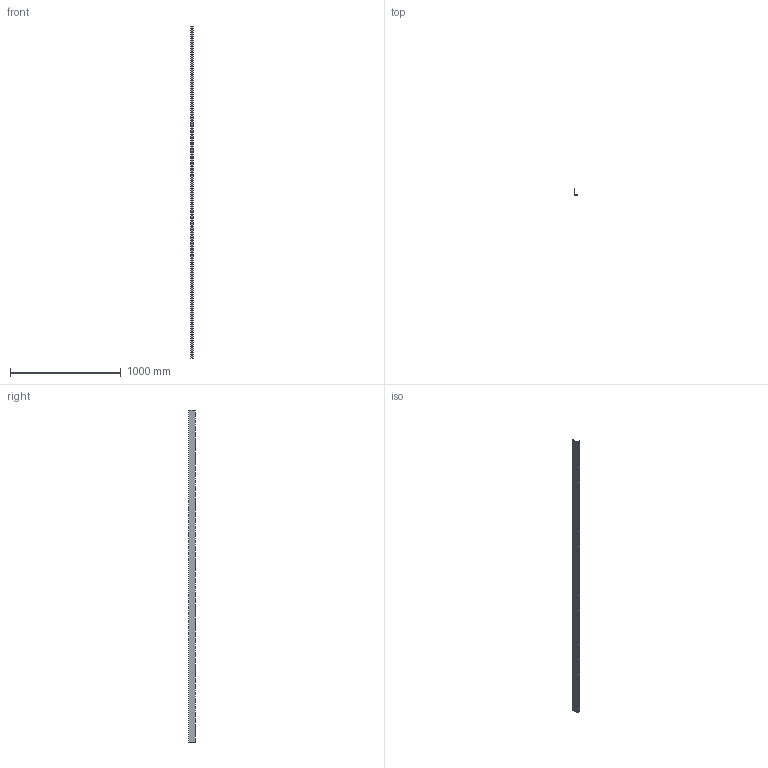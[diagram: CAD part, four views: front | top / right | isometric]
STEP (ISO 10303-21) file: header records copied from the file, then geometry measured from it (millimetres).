
FILE_DESCRIPTION (( 'STEP AP214' ), '1' );
FILE_NAME ('52D3H.step', '2025-02-21T10:28:16', ( '' ), ( '' ), 'SwSTEP 2.0', 'SolidWorks 2023', '' );
FILE_SCHEMA (( 'AUTOMOTIVE_DESIGN' ));
Length unit declared in the file: millimetre
Products named in the file (1): 52D3H
Bounding box: 27 x 58 x 3000 mm (x, y, z)
Volume: 192000 mm3; surface area: 488621.1 mm2
Topology: 1 solids, 1 shells, 296 faces, 882 edges, 588 vertices
Faces by surface type: plane 296
Entity records: 10037 total; most frequent: CARTESIAN_POINT 1767, ORIENTED_EDGE 1764, DIRECTION 1476, LINE 882, EDGE_CURVE 882, VECTOR 882, VERTEX_POINT 588, EDGE_LOOP 440
